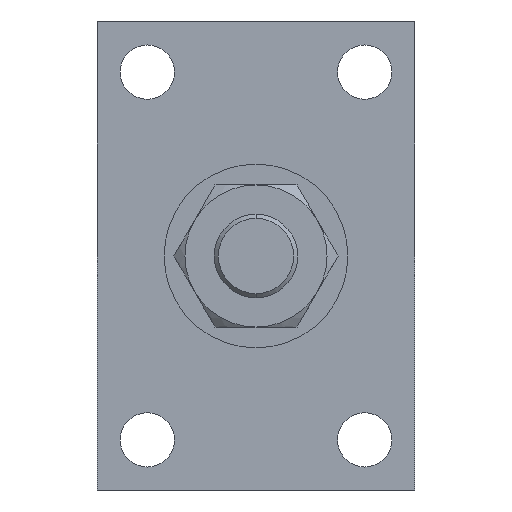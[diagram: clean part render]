
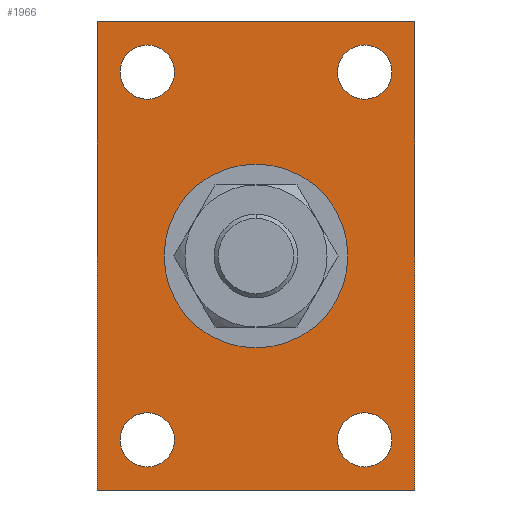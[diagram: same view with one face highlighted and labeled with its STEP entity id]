
A CAD part, left-side view. The second image highlights one B-rep face of the part: STEP entity #1966.
In plain terms, the highlighted planar face has unit normal (-1, 0, 0).
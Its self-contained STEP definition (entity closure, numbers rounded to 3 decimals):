
#17 = CARTESIAN_POINT ( 'NONE',  ( -29., 13., -18.75 ) ) ;
#29 = DIRECTION ( 'NONE',  ( -1., 0., 0. ) ) ;
#44 = CIRCLE ( 'NONE', #211, 3.25 ) ;
#49 = AXIS2_PLACEMENT_3D ( 'NONE', #1683, #2557, #968 ) ;
#58 = VERTEX_POINT ( 'NONE', #108 ) ;
#99 = EDGE_CURVE ( 'NONE', #524, #2899, #2239, .T. ) ;
#108 = CARTESIAN_POINT ( 'NONE',  ( -29., 19., -28. ) ) ;
#118 = FACE_BOUND ( 'NONE', #1382, .T. ) ;
#123 = CARTESIAN_POINT ( 'NONE',  ( -29., -19., -28. ) ) ;
#141 = EDGE_CURVE ( 'NONE', #58, #1951, #695, .T. ) ;
#152 = DIRECTION ( 'NONE',  ( -1., 0., 0. ) ) ;
#177 = LINE ( 'NONE', #1378, #1106 ) ;
#211 = AXIS2_PLACEMENT_3D ( 'NONE', #2516, #1879, #1212 ) ;
#224 = EDGE_CURVE ( 'NONE', #433, #897, #44, .T. ) ;
#257 = DIRECTION ( 'NONE',  ( 0., 0., 1. ) ) ;
#276 = DIRECTION ( 'NONE',  ( 0., 0., 1. ) ) ;
#301 = VERTEX_POINT ( 'NONE', #2640 ) ;
#317 = FACE_OUTER_BOUND ( 'NONE', #675, .T. ) ;
#356 = CARTESIAN_POINT ( 'NONE',  ( -29., -13., -25.25 ) ) ;
#383 = VERTEX_POINT ( 'NONE', #1784 ) ;
#421 = AXIS2_PLACEMENT_3D ( 'NONE', #638, #2832, #2882 ) ;
#433 = VERTEX_POINT ( 'NONE', #2270 ) ;
#461 = EDGE_CURVE ( 'NONE', #2492, #1561, #2197, .T. ) ;
#476 = AXIS2_PLACEMENT_3D ( 'NONE', #964, #29, #1513 ) ;
#504 = DIRECTION ( 'NONE',  ( 1., 0., 0. ) ) ;
#524 = VERTEX_POINT ( 'NONE', #1771 ) ;
#564 = EDGE_CURVE ( 'NONE', #580, #383, #772, .T. ) ;
#580 = VERTEX_POINT ( 'NONE', #1809 ) ;
#604 = CARTESIAN_POINT ( 'NONE',  ( -29., 19., 28. ) ) ;
#608 = CARTESIAN_POINT ( 'NONE',  ( -29., -19., -28. ) ) ;
#620 = ORIENTED_EDGE ( 'NONE', *, *, #461, .F. ) ;
#638 = CARTESIAN_POINT ( 'NONE',  ( -29., -13., -22. ) ) ;
#639 = AXIS2_PLACEMENT_3D ( 'NONE', #1494, #2019, #691 ) ;
#661 = ORIENTED_EDGE ( 'NONE', *, *, #2537, .F. ) ;
#675 = EDGE_LOOP ( 'NONE', ( #2544, #826, #1968, #661 ) ) ;
#691 = DIRECTION ( 'NONE',  ( 0., 0., 1. ) ) ;
#695 = LINE ( 'NONE', #1100, #2464 ) ;
#736 = AXIS2_PLACEMENT_3D ( 'NONE', #1918, #504, #2785 ) ;
#750 = DIRECTION ( 'NONE',  ( 0., 0., 1. ) ) ;
#772 = CIRCLE ( 'NONE', #1989, 3.25 ) ;
#826 = ORIENTED_EDGE ( 'NONE', *, *, #141, .F. ) ;
#840 = EDGE_CURVE ( 'NONE', #1951, #2639, #177, .T. ) ;
#842 = ORIENTED_EDGE ( 'NONE', *, *, #1937, .F. ) ;
#897 = VERTEX_POINT ( 'NONE', #17 ) ;
#898 = AXIS2_PLACEMENT_3D ( 'NONE', #2459, #1206, #2837 ) ;
#903 = EDGE_CURVE ( 'NONE', #2899, #524, #1207, .T. ) ;
#964 = CARTESIAN_POINT ( 'NONE',  ( -29., -13., 22. ) ) ;
#968 = DIRECTION ( 'NONE',  ( 0., 0., 1. ) ) ;
#1064 = EDGE_LOOP ( 'NONE', ( #1537, #1613 ) ) ;
#1100 = CARTESIAN_POINT ( 'NONE',  ( -29., 19., 28. ) ) ;
#1106 = VECTOR ( 'NONE', #1895, 1000. ) ;
#1114 = EDGE_LOOP ( 'NONE', ( #2280, #1575 ) ) ;
#1136 = EDGE_CURVE ( 'NONE', #1561, #2492, #1571, .T. ) ;
#1137 = VECTOR ( 'NONE', #2308, 1000. ) ;
#1196 = CIRCLE ( 'NONE', #736, 11. ) ;
#1206 = DIRECTION ( 'NONE',  ( 1., 0., 0. ) ) ;
#1207 = CIRCLE ( 'NONE', #639, 3.25 ) ;
#1212 = DIRECTION ( 'NONE',  ( 0., 0., 1. ) ) ;
#1263 = FACE_BOUND ( 'NONE', #2819, .T. ) ;
#1309 = DIRECTION ( 'NONE',  ( 0., 0., 1. ) ) ;
#1366 = CARTESIAN_POINT ( 'NONE',  ( -29., -13., 22. ) ) ;
#1378 = CARTESIAN_POINT ( 'NONE',  ( -29., -19., 28. ) ) ;
#1382 = EDGE_LOOP ( 'NONE', ( #2772, #2660 ) ) ;
#1411 = CIRCLE ( 'NONE', #2251, 3.25 ) ;
#1415 = CARTESIAN_POINT ( 'NONE',  ( -29., -19., 28. ) ) ;
#1472 = VECTOR ( 'NONE', #2659, 1000. ) ;
#1494 = CARTESIAN_POINT ( 'NONE',  ( -29., -13., -22. ) ) ;
#1513 = DIRECTION ( 'NONE',  ( 0., 0., 1. ) ) ;
#1537 = ORIENTED_EDGE ( 'NONE', *, *, #99, .F. ) ;
#1561 = VERTEX_POINT ( 'NONE', #2595 ) ;
#1571 = CIRCLE ( 'NONE', #476, 3.25 ) ;
#1575 = ORIENTED_EDGE ( 'NONE', *, *, #1631, .T. ) ;
#1583 = CARTESIAN_POINT ( 'NONE',  ( -29., -19., 28. ) ) ;
#1613 = ORIENTED_EDGE ( 'NONE', *, *, #903, .F. ) ;
#1614 = ORIENTED_EDGE ( 'NONE', *, *, #564, .F. ) ;
#1631 = EDGE_CURVE ( 'NONE', #2173, #301, #1196, .T. ) ;
#1663 = AXIS2_PLACEMENT_3D ( 'NONE', #1366, #2225, #276 ) ;
#1683 = CARTESIAN_POINT ( 'NONE',  ( -29., 13., 22. ) ) ;
#1688 = CARTESIAN_POINT ( 'NONE',  ( -29., 0., -11. ) ) ;
#1771 = CARTESIAN_POINT ( 'NONE',  ( -29., -13., -18.75 ) ) ;
#1784 = CARTESIAN_POINT ( 'NONE',  ( -29., 13., 25.25 ) ) ;
#1809 = CARTESIAN_POINT ( 'NONE',  ( -29., 13., 18.75 ) ) ;
#1868 = DIRECTION ( 'NONE',  ( 0., 0., 1. ) ) ;
#1879 = DIRECTION ( 'NONE',  ( -1., 0., 0. ) ) ;
#1889 = CIRCLE ( 'NONE', #49, 3.25 ) ;
#1895 = DIRECTION ( 'NONE',  ( 0., -1., 0. ) ) ;
#1918 = CARTESIAN_POINT ( 'NONE',  ( -29., 0., 0. ) ) ;
#1932 = LINE ( 'NONE', #608, #1137 ) ;
#1937 = EDGE_CURVE ( 'NONE', #383, #580, #1889, .T. ) ;
#1951 = VERTEX_POINT ( 'NONE', #604 ) ;
#1966 = ADVANCED_FACE ( 'NONE', ( #118, #1263, #2513, #2035, #317, #2039 ), #2129, .T. ) ;
#1968 = ORIENTED_EDGE ( 'NONE', *, *, #1988, .F. ) ;
#1987 = DIRECTION ( 'NONE',  ( -1., 0., 0. ) ) ;
#1988 = EDGE_CURVE ( 'NONE', #2044, #58, #1932, .T. ) ;
#1989 = AXIS2_PLACEMENT_3D ( 'NONE', #2023, #152, #1868 ) ;
#2019 = DIRECTION ( 'NONE',  ( -1., 0., 0. ) ) ;
#2023 = CARTESIAN_POINT ( 'NONE',  ( -29., 13., 22. ) ) ;
#2035 = FACE_BOUND ( 'NONE', #1064, .T. ) ;
#2039 = FACE_BOUND ( 'NONE', #1114, .T. ) ;
#2044 = VERTEX_POINT ( 'NONE', #123 ) ;
#2129 = PLANE ( 'NONE',  #2738 ) ;
#2173 = VERTEX_POINT ( 'NONE', #1688 ) ;
#2197 = CIRCLE ( 'NONE', #1663, 3.25 ) ;
#2225 = DIRECTION ( 'NONE',  ( -1., 0., 0. ) ) ;
#2228 = CARTESIAN_POINT ( 'NONE',  ( -29., -13., 25.25 ) ) ;
#2239 = CIRCLE ( 'NONE', #421, 3.25 ) ;
#2251 = AXIS2_PLACEMENT_3D ( 'NONE', #2295, #2645, #750 ) ;
#2270 = CARTESIAN_POINT ( 'NONE',  ( -29., 13., -25.25 ) ) ;
#2280 = ORIENTED_EDGE ( 'NONE', *, *, #2767, .T. ) ;
#2295 = CARTESIAN_POINT ( 'NONE',  ( -29., 13., -22. ) ) ;
#2308 = DIRECTION ( 'NONE',  ( 0., 1., 0. ) ) ;
#2369 = EDGE_CURVE ( 'NONE', #897, #433, #1411, .T. ) ;
#2380 = EDGE_LOOP ( 'NONE', ( #620, #2925 ) ) ;
#2404 = CARTESIAN_POINT ( 'NONE',  ( -29., 0., 0. ) ) ;
#2418 = LINE ( 'NONE', #1415, #1472 ) ;
#2459 = CARTESIAN_POINT ( 'NONE',  ( -29., 0., 0. ) ) ;
#2464 = VECTOR ( 'NONE', #257, 1000. ) ;
#2492 = VERTEX_POINT ( 'NONE', #2228 ) ;
#2513 = FACE_BOUND ( 'NONE', #2380, .T. ) ;
#2515 = CIRCLE ( 'NONE', #898, 11. ) ;
#2516 = CARTESIAN_POINT ( 'NONE',  ( -29., 13., -22. ) ) ;
#2537 = EDGE_CURVE ( 'NONE', #2639, #2044, #2418, .T. ) ;
#2544 = ORIENTED_EDGE ( 'NONE', *, *, #840, .F. ) ;
#2557 = DIRECTION ( 'NONE',  ( -1., 0., 0. ) ) ;
#2595 = CARTESIAN_POINT ( 'NONE',  ( -29., -13., 18.75 ) ) ;
#2639 = VERTEX_POINT ( 'NONE', #1583 ) ;
#2640 = CARTESIAN_POINT ( 'NONE',  ( -29., 0., 11. ) ) ;
#2645 = DIRECTION ( 'NONE',  ( -1., 0., 0. ) ) ;
#2659 = DIRECTION ( 'NONE',  ( 0., 0., -1. ) ) ;
#2660 = ORIENTED_EDGE ( 'NONE', *, *, #224, .F. ) ;
#2738 = AXIS2_PLACEMENT_3D ( 'NONE', #2404, #1987, #1309 ) ;
#2767 = EDGE_CURVE ( 'NONE', #301, #2173, #2515, .T. ) ;
#2772 = ORIENTED_EDGE ( 'NONE', *, *, #2369, .F. ) ;
#2785 = DIRECTION ( 'NONE',  ( 0., 0., 1. ) ) ;
#2819 = EDGE_LOOP ( 'NONE', ( #842, #1614 ) ) ;
#2832 = DIRECTION ( 'NONE',  ( -1., 0., 0. ) ) ;
#2837 = DIRECTION ( 'NONE',  ( 0., 0., 1. ) ) ;
#2882 = DIRECTION ( 'NONE',  ( 0., 0., 1. ) ) ;
#2899 = VERTEX_POINT ( 'NONE', #356 ) ;
#2925 = ORIENTED_EDGE ( 'NONE', *, *, #1136, .F. ) ;
